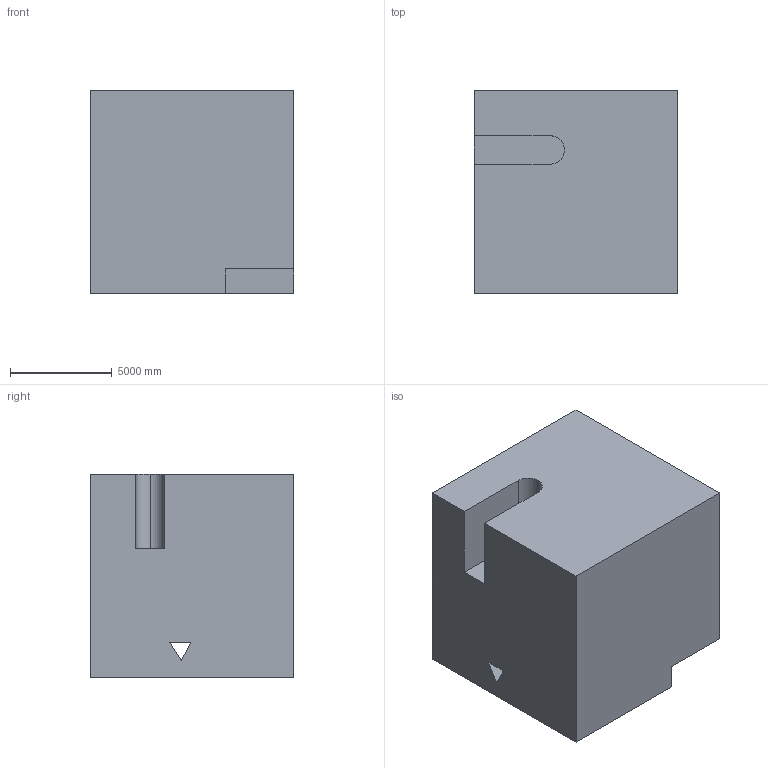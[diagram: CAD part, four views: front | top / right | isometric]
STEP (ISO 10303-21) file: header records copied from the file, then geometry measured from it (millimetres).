
FILE_DESCRIPTION (( 'STEP AP203' ), '1' );
FILE_NAME ('288.STEP', '2022-07-28T14:13:11', ( 'user' ), ( '' ), 'SwSTEP 2.0', 'SolidWorks 2021', '' );
FILE_SCHEMA (( 'CONFIG_CONTROL_DESIGN' ));
Length unit declared in the file: centimetre
Products named in the file (1): 288
Bounding box: 10000 x 10000 x 10000 mm (x, y, z)
Volume: 957834196493.1 mm3; surface area: 660877512.3 mm2
Topology: 1 solids, 1 shells, 17 faces, 45 edges, 30 vertices
Faces by surface type: plane 15, cylinder 2
Entity records: 604 total; most frequent: CARTESIAN_POINT 93, ORIENTED_EDGE 90, DIRECTION 85, EDGE_CURVE 45, LINE 41, VECTOR 41, VERTEX_POINT 30, AXIS2_PLACEMENT_3D 22
